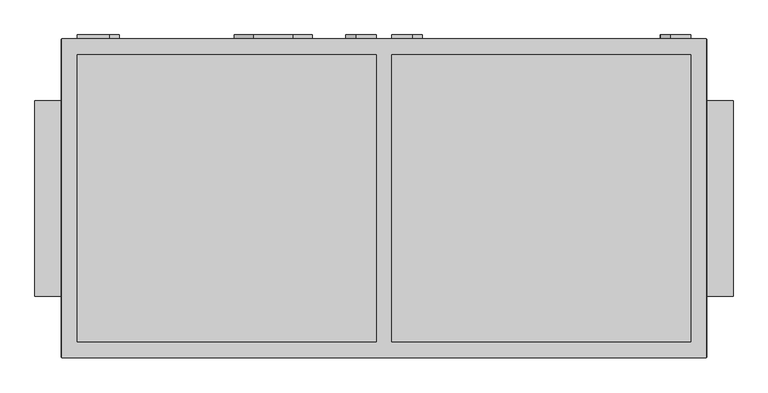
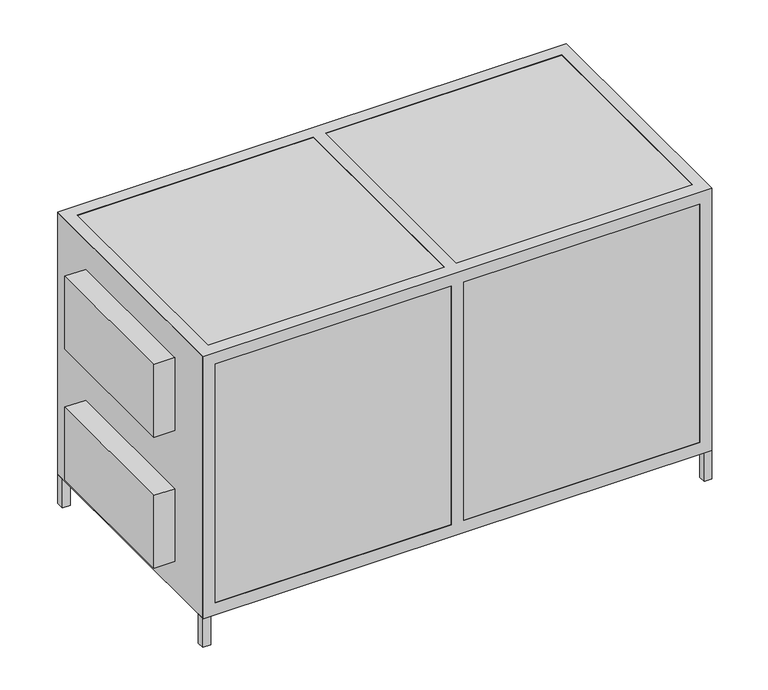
"""IFC4 building model written with IfcOpenShell, lengths in millimetres: proxy geometry, AVS 2200...3800-S-RC(RG)-L : AVS 2200-S-RG-L."""

from ifc_helpers import new_model, si_unit, point, frame, frame_2d, origin, origin_with_axes, place, context, project, spatial, polyline, circle_curve, trimmed, segment, composite_curve, outline, extrude, faceted_brep, source, transform, mapped, element, save


def mechanical_equipment_8cbfdd6f(model_context):
    return source(origin(), model_context, "Body", "SolidModel", [
        extrude(outline(polyline([(800.0, 407.0), (825.0, 407.0), (825.0, 382.0), (800.0, 382.0), (800.0, 407.0)])), origin_with_axes(), (0.0, 0.0, 1.0), 100.0),
        extrude(outline(polyline([(800.0, -407.0), (800.0, -382.0), (825.0, -382.0), (825.0, -407.0), (800.0, -407.0)])), origin_with_axes(), (0.0, 0.0, 1.0), 100.0),
        extrude(outline(polyline([(-825.0, 382.0), (-825.0, 407.0), (-800.0, 407.0), (-800.0, 382.0), (-825.0, 382.0)])), origin_with_axes(), (0.0, 0.0, 1.0), 100.0),
        extrude(outline(polyline([(-825.0, -382.0), (-800.0, -382.0), (-800.0, -407.0), (-825.0, -407.0), (-825.0, -382.0)])), origin_with_axes(), (0.0, 0.0, 1.0), 100.0),
        faceted_brep([(824.0, 408.0, 999.0), (-824.0, 408.0, 999.0), (-824.0, -408.0, 999.0), (824.0, -408.0, 999.0), (-785.0, 367.0, 999.0), (-20.0, 367.0, 999.0), (-20.0, -367.0, 999.0), (-785.0, -367.0, 999.0), (785.0, 367.0, 999.0), (785.0, -367.0, 999.0), (20.0, -367.0, 999.0), (20.0, 367.0, 999.0), (824.0, 408.0, 99.0), (824.0, -408.0, 99.0), (-824.0, -408.0, 99.0), (-824.0, 408.0, 99.0), (-20.0, 367.0, 99.0), (-785.0, 367.0, 99.0), (-785.0, -367.0, 99.0), (-20.0, -367.0, 99.0), (785.0, -367.0, 99.0), (785.0, 367.0, 99.0), (20.0, 367.0, 99.0), (20.0, -367.0, 99.0), (-20.0, 408.0, 958.0), (-785.0, 408.0, 958.0), (-785.0, 408.0, 140.0), (-20.0, 408.0, 140.0), (785.0, 408.0, 140.0), (785.0, 408.0, 958.0), (20.0, 408.0, 958.0), (20.0, 408.0, 140.0), (-824.0, -367.0, 958.0), (-824.0, -367.0, 140.0), (-824.0, 367.0, 140.0), (-824.0, 367.0, 958.0), (-785.0, -408.0, 958.0), (-20.0, -408.0, 958.0), (-20.0, -408.0, 140.0), (-785.0, -408.0, 140.0), (785.0, -408.0, 958.0), (785.0, -408.0, 140.0), (20.0, -408.0, 140.0), (20.0, -408.0, 958.0), (824.0, -367.0, 140.0), (824.0, -367.0, 958.0), (824.0, 367.0, 958.0), (824.0, 367.0, 140.0), (-785.0, 367.0, 958.0), (-20.0, 367.0, 958.0), (-20.0, 367.0, 140.0), (-785.0, 367.0, 140.0), (-20.0, -367.0, 958.0), (-785.0, -367.0, 958.0), (-785.0, -367.0, 140.0), (-20.0, -367.0, 140.0), (785.0, 367.0, 958.0), (785.0, -367.0, 958.0), (785.0, -367.0, 140.0), (785.0, 367.0, 140.0), (20.0, 367.0, 958.0), (20.0, -367.0, 958.0), (20.0, -367.0, 140.0), (20.0, 367.0, 140.0)], [[[0, 1, 2, 3], [4, 5, 6, 7], [8, 9, 10, 11]], [[12, 13, 14, 15], [16, 17, 18, 19], [20, 21, 22, 23]], [[1, 0, 12, 15], [24, 25, 26, 27], [28, 29, 30, 31]], [[2, 1, 15, 14], [32, 33, 34, 35]], [[3, 2, 14, 13], [36, 37, 38, 39], [40, 41, 42, 43]], [[0, 3, 13, 12], [44, 45, 46, 47]], [[5, 4, 48, 49]], [[17, 16, 50, 51]], [[7, 6, 52, 53]], [[19, 18, 54, 55]], [[9, 8, 56, 57]], [[21, 20, 58, 59]], [[40, 57, 58, 41]], [[56, 29, 28, 59]], [[35, 48, 53, 32]], [[45, 57, 56, 46]], [[49, 60, 61, 52]], [[51, 34, 33, 54]], [[47, 59, 58, 44]], [[55, 62, 63, 50]], [[36, 53, 52, 37]], [[24, 49, 48, 25]], [[54, 39, 38, 55]], [[50, 27, 26, 51]], [[32, 53, 54, 33]], [[52, 61, 62, 55]], [[44, 58, 57, 45]], [[48, 35, 34, 51]], [[60, 49, 50, 63]], [[59, 47, 46, 56]], [[4, 7, 53, 48]], [[18, 17, 51, 54]], [[53, 36, 39, 54]], [[25, 48, 51, 26]], [[6, 5, 49, 52]], [[16, 19, 55, 50]], [[37, 52, 55, 38]], [[49, 24, 27, 50]], [[8, 11, 60, 56]], [[22, 21, 59, 63]], [[11, 10, 61, 60]], [[23, 22, 63, 62]], [[30, 60, 63, 31]], [[61, 43, 42, 62]], [[10, 9, 57, 61]], [[20, 23, 62, 58]], [[57, 40, 43, 61]], [[29, 56, 60, 30]], [[41, 58, 62, 42]], [[59, 28, 31, 63]]]),
        extrude(outline(polyline([(-825.0, 407.0), (825.0, 407.0), (825.0, -407.0), (-825.0, -407.0), (-825.0, 407.0)])), frame((0.0, 0.0, 100.0), z_axis=(0.0, 0.0, 1.0), x_axis=(1.0, 0.0, 0.0)), (0.0, 0.0, 1.0), 898.0),
        extrude(outline(composite_curve([segment(polyline([(798.5, -702.2895396), (798.5, -785.0), (748.5, -785.0), (748.5, -702.2895396)]), True, "CONTINUOUS"), segment(trimmed(circle_curve(frame_2d((773.5, -702.2895396)), 25.0), [point((748.5, -702.2895396))], [point((798.5, -702.2895396))], False, "CARTESIAN"), True, "CONTINUOUS")], self_intersect=False)), frame((0.0, 407.0, 0.0), z_axis=(0.0, 1.0, 0.0), x_axis=(0.0, 0.0, 1.0)), (0.0, 0.0, 1.0), 11.0),
        extrude(outline(composite_curve([segment(polyline([(349.5, -702.2895396), (349.5, -785.0), (299.5, -785.0), (299.5, -702.2895396)]), True, "CONTINUOUS"), segment(trimmed(circle_curve(frame_2d((324.5, -702.2895396)), 25.0), [point((299.5, -702.2895396))], [point((349.5, -702.2895396))], False, "CARTESIAN"), True, "CONTINUOUS")], self_intersect=False)), frame((0.0, 407.0, 0.0), z_axis=(0.0, 1.0, 0.0), x_axis=(0.0, 0.0, 1.0)), (0.0, 0.0, 1.0), 11.0),
        extrude(outline(composite_curve([segment(trimmed(circle_curve(frame_2d((703.5, -72.7104604)), 25.0), [point((728.5, -72.7104604))], [point((678.5, -72.7104604))], False, "CARTESIAN"), True, "CONTINUOUS"), segment(polyline([(678.5, -72.7104604), (678.5, -20.0), (728.5, -20.0), (728.5, -72.7104604)]), True, "CONTINUOUS")], self_intersect=False)), frame((0.0, 407.0, 0.0), z_axis=(0.0, 1.0, 0.0), x_axis=(0.0, 0.0, 1.0)), (0.0, 0.0, 1.0), 11.0),
        extrude(outline(composite_curve([segment(polyline([(369.5, -72.7104604), (369.5, -20.0), (419.5, -20.0), (419.5, -72.7104604)]), True, "CONTINUOUS"), segment(trimmed(circle_curve(frame_2d((394.5, -72.7104604)), 25.0), [point((419.5, -72.7104604))], [point((369.5, -72.7104604))], False, "CARTESIAN"), True, "CONTINUOUS")], self_intersect=False)), frame((0.0, 407.0, 0.0), z_axis=(0.0, 1.0, 0.0), x_axis=(0.0, 0.0, 1.0)), (0.0, 0.0, 1.0), 11.0),
        extrude(outline(composite_curve([segment(trimmed(circle_curve(frame_2d((923.5, 732.2895396)), 25.0), [point((948.5, 732.2895396))], [point((898.5, 732.2895396))], False, "CARTESIAN"), True, "CONTINUOUS"), segment(polyline([(898.5, 732.2895396), (898.5, 785.0), (948.5, 785.0), (948.5, 732.2895396)]), True, "CONTINUOUS")], self_intersect=False)), frame((0.0, 407.0, 0.0), z_axis=(0.0, 1.0, 0.0), x_axis=(0.0, 0.0, 1.0)), (0.0, 0.0, 1.0), 11.0),
        extrude(outline(composite_curve([segment(polyline([(149.5, 732.2895396), (149.5, 785.0), (199.5, 785.0), (199.5, 732.2895396)]), True, "CONTINUOUS"), segment(trimmed(circle_curve(frame_2d((174.5, 732.2895396)), 25.0), [point((199.5, 732.2895396))], [point((149.5, 732.2895396))], False, "CARTESIAN"), True, "CONTINUOUS")], self_intersect=False)), frame((0.0, 407.0, 0.0), z_axis=(0.0, 1.0, 0.0), x_axis=(0.0, 0.0, 1.0)), (0.0, 0.0, 1.0), 11.0),
        extrude(outline(composite_curve([segment(polyline([(848.5, 72.7104604), (848.5, 20.0), (798.5, 20.0), (798.5, 72.7104604)]), True, "CONTINUOUS"), segment(trimmed(circle_curve(frame_2d((823.5, 72.7104604)), 25.0), [point((798.5, 72.7104604))], [point((848.5, 72.7104604))], False, "CARTESIAN"), True, "CONTINUOUS")], self_intersect=False)), frame((0.0, 407.0, 0.0), z_axis=(0.0, 1.0, 0.0), x_axis=(0.0, 0.0, 1.0)), (0.0, 0.0, 1.0), 11.0),
        extrude(outline(composite_curve([segment(trimmed(circle_curve(frame_2d((274.5, 72.7104604)), 25.0), [point((249.5, 72.7104604))], [point((299.5, 72.7104604))], False, "CARTESIAN"), True, "CONTINUOUS"), segment(polyline([(299.5, 72.7104604), (299.5, 20.0), (249.5, 20.0), (249.5, 72.7104604)]), True, "CONTINUOUS")], self_intersect=False)), frame((0.0, 407.0, 0.0), z_axis=(0.0, 1.0, 0.0), x_axis=(0.0, 0.0, 1.0)), (0.0, 0.0, 1.0), 11.0),
        extrude(outline(composite_curve([segment(polyline([(897.4531077, -233.4249776), (897.4531077, -333.4249776)]), True, "CONTINUOUS"), segment(trimmed(circle_curve(frame_2d((847.4531077, -333.4249776)), 50.0), [point((897.4531077, -333.4249776))], [point((797.4531077, -333.4249776))], False, "CARTESIAN"), True, "CONTINUOUS"), segment(polyline([(797.4531077, -333.4249776), (797.4531077, -233.4249776)]), True, "CONTINUOUS"), segment(trimmed(circle_curve(frame_2d((847.4531077, -233.4249776)), 50.0), [point((797.4531077, -233.4249776))], [point((897.4531077, -233.4249776))], False, "CARTESIAN"), True, "CONTINUOUS")], self_intersect=False)), frame((0.0, 407.0, 0.0), z_axis=(0.0, 1.0, 0.0), x_axis=(0.0, 0.0, 1.0)), (0.0, 0.0, 1.0), 11.0),
        extrude(outline(polyline([(-893.0, -250.0), (-893.0, 250.0), (-825.0, 250.0), (-825.0, -250.0), (-893.0, -250.0)])), frame((0.0, 0.0, 648.5), z_axis=(0.0, 0.0, 1.0), x_axis=(1.0, 0.0, 0.0)), (0.0, 0.0, 1.0), 250.0),
        extrude(outline(polyline([(-893.0, -250.0), (-893.0, 250.0), (-825.0, 250.0), (-825.0, -250.0), (-893.0, -250.0)])), frame((0.0, 0.0, 199.5), z_axis=(0.0, 0.0, 1.0), x_axis=(1.0, 0.0, 0.0)), (0.0, 0.0, 1.0), 250.0),
        extrude(outline(polyline([(893.0, 250.0), (893.0, -250.0), (825.0, -250.0), (825.0, 250.0), (893.0, 250.0)])), frame((0.0, 0.0, 648.5), z_axis=(0.0, 0.0, 1.0), x_axis=(1.0, 0.0, 0.0)), (0.0, 0.0, 1.0), 250.0),
        extrude(outline(polyline([(893.0, 250.0), (893.0, -250.0), (825.0, -250.0), (825.0, 250.0), (893.0, 250.0)])), frame((0.0, 0.0, 199.5), z_axis=(0.0, 0.0, 1.0), x_axis=(1.0, 0.0, 0.0)), (0.0, 0.0, 1.0), 250.0),
    ])


if __name__ == "__main__":
    model = new_model("IFC4")
    model_context = context("Model", 3, world=origin())
    ifc_project = project(units=[si_unit("LENGTHUNIT", "METRE", prefix="MILLI")], contexts=[model_context])
    site = spatial("IfcSite", under=ifc_project)
    building = spatial("IfcBuilding", under=site)
    placement = place(None, origin())
    mechanical_equipment_shape = mechanical_equipment_8cbfdd6f(model_context)
    element("IfcBuildingElementProxy", 1, Name="AVS 2200...3800-S-RC(RG)-L : AVS 2200-S-RG-L", ObjectType="AVS 2200...3800-S-RC(RG)-L : AVS 2200-S-RG-L", at=placement, inside=building, context=model_context, shape_type="MappedRepresentation", body=[
        mapped(mechanical_equipment_shape, transform((0.0, 0.0, 0.0), x_axis=(1.0, 0.0, 0.0), y_axis=(0.0, 1.0, 0.0), z_axis=(0.0, 0.0, 1.0))),
    ])
    save(model, "model.ifc")
